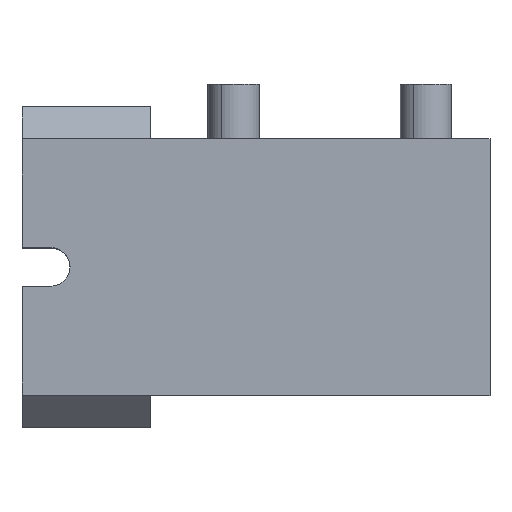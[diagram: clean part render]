
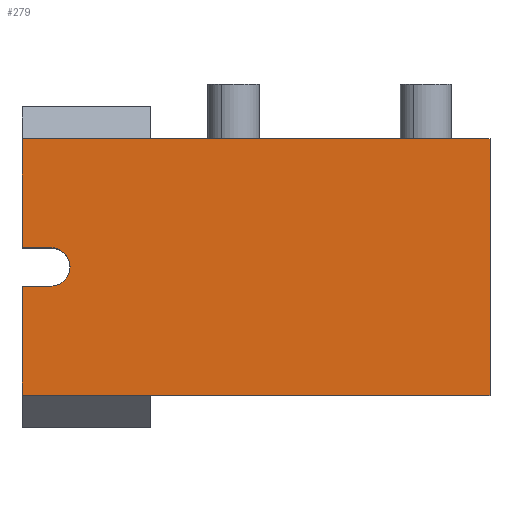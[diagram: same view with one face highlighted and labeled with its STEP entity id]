
A CAD part, top view. The second image highlights one B-rep face of the part: STEP entity #279.
In plain terms, the highlighted planar face has unit normal (0, 0, 1).
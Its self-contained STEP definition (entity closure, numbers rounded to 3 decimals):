
#279=ADVANCED_FACE('Pad.1',(#628),#629,.F.);
#628=FACE_OUTER_BOUND('',#1094,.T.);
#629=PLANE('',#1095);
#1094=EDGE_LOOP('',(#1739,#1740,#1741,#1742,#1743,#1744,#1745,#1746,#1747,#1748,#1749));
#1095=AXIS2_PLACEMENT_3D('',#1750,#1751,#1752);
#1739=ORIENTED_EDGE('',*,*,#2773,.F.);
#1740=ORIENTED_EDGE('',*,*,#2798,.F.);
#1741=ORIENTED_EDGE('',*,*,#2801,.F.);
#1742=ORIENTED_EDGE('',*,*,#2756,.F.);
#1743=ORIENTED_EDGE('',*,*,#2802,.F.);
#1744=ORIENTED_EDGE('',*,*,#2803,.F.);
#1745=ORIENTED_EDGE('',*,*,#2804,.F.);
#1746=ORIENTED_EDGE('',*,*,#2805,.F.);
#1747=ORIENTED_EDGE('',*,*,#2806,.F.);
#1748=ORIENTED_EDGE('',*,*,#2807,.F.);
#1749=ORIENTED_EDGE('',*,*,#2778,.F.);
#1750=CARTESIAN_POINT('',(0.0,0.0,27.5));
#1751=DIRECTION('',(0.0,0.0,-1.0));
#1752=DIRECTION('',(1.0,0.0,0.0));
#2756=EDGE_CURVE('',#3318,#3314,#3320,.F.);
#2773=EDGE_CURVE('',#3345,#3332,#3347,.T.);
#2778=EDGE_CURVE('',#3332,#3350,#3354,.F.);
#2798=EDGE_CURVE('',#3381,#3345,#3384,.T.);
#2801=EDGE_CURVE('',#3314,#3381,#3387,.F.);
#2802=EDGE_CURVE('',#3388,#3318,#3389,.F.);
#2803=EDGE_CURVE('',#3390,#3388,#3391,.T.);
#2804=EDGE_CURVE('',#3392,#3390,#3393,.T.);
#2805=EDGE_CURVE('',#3394,#3392,#3395,.F.);
#2806=EDGE_CURVE('',#3396,#3394,#3397,.F.);
#2807=EDGE_CURVE('',#3350,#3396,#3398,.F.);
#3314=VERTEX_POINT('',#4079);
#3318=VERTEX_POINT('',#4101);
#3320=CIRCLE('',#4104,3.0);
#3332=VERTEX_POINT('',#4120);
#3345=VERTEX_POINT('',#4138);
#3347=LINE('',#4141,#4142);
#3350=VERTEX_POINT('',#4145);
#3354=LINE('',#4151,#4152);
#3381=VERTEX_POINT('',#4191);
#3384=LINE('',#4195,#4196);
#3387=CIRCLE('',#4200,3.0);
#3388=VERTEX_POINT('',#4201);
#3389=LINE('',#4202,#4203);
#3390=VERTEX_POINT('',#4204);
#3391=LINE('',#4205,#4206);
#3392=VERTEX_POINT('',#4207);
#3393=LINE('',#4208,#4209);
#3394=VERTEX_POINT('',#4210);
#3395=LINE('',#4211,#4212);
#3396=VERTEX_POINT('',#4213);
#3397=LINE('',#4214,#4215);
#3398=LINE('',#4216,#4217);
#4079=CARTESIAN_POINT('',(-8.5,0.,27.5));
#4101=CARTESIAN_POINT('',(-11.5,-3.0,27.5));
#4104=AXIS2_PLACEMENT_3D('',#4895,#4896,#4897);
#4120=CARTESIAN_POINT('',(-16.0,20.0,27.5));
#4138=CARTESIAN_POINT('',(-16.0,3.0,27.5));
#4141=CARTESIAN_POINT('',(-16.0,11.5,27.5));
#4142=VECTOR('',#4914,1.0);
#4145=CARTESIAN_POINT('',(4.,20.0,27.5));
#4151=CARTESIAN_POINT('',(-6.,20.0,27.5));
#4152=VECTOR('',#4920,1.0);
#4191=CARTESIAN_POINT('',(-11.5,3.0,27.5));
#4195=CARTESIAN_POINT('',(-13.75,3.0,27.5));
#4196=VECTOR('',#4937,1.0);
#4200=AXIS2_PLACEMENT_3D('',#4939,#4940,#4941);
#4201=CARTESIAN_POINT('',(-16.0,-3.0,27.5));
#4202=CARTESIAN_POINT('',(-13.75,-3.0,27.5));
#4203=VECTOR('',#4942,1.0);
#4204=CARTESIAN_POINT('',(-16.0,-20.0,27.5));
#4205=CARTESIAN_POINT('',(-16.0,-11.5,27.5));
#4206=VECTOR('',#4943,1.0);
#4207=CARTESIAN_POINT('',(4.0,-20.0,27.5));
#4208=CARTESIAN_POINT('',(-6.0,-20.0,27.5));
#4209=VECTOR('',#4944,1.0);
#4210=CARTESIAN_POINT('',(57.0,-20.0,27.5));
#4211=CARTESIAN_POINT('',(30.5,-20.0,27.5));
#4212=VECTOR('',#4945,1.0);
#4213=CARTESIAN_POINT('',(57.0,20.0,27.5));
#4214=CARTESIAN_POINT('',(57.0,0.0,27.5));
#4215=VECTOR('',#4946,1.0);
#4216=CARTESIAN_POINT('',(30.5,20.0,27.5));
#4217=VECTOR('',#4947,1.0);
#4895=CARTESIAN_POINT('',(-11.5,0.0,27.5));
#4896=DIRECTION('',(0.0,0.0,-1.0));
#4897=DIRECTION('',(1.0,0.0,0.0));
#4914=DIRECTION('',(0.0,1.0,0.0));
#4920=DIRECTION('',(-1.0,0.0,0.0));
#4937=DIRECTION('',(-1.0,0.0,0.0));
#4939=CARTESIAN_POINT('',(-11.5,0.0,27.5));
#4940=DIRECTION('',(0.0,0.0,-1.0));
#4941=DIRECTION('',(1.0,0.0,0.0));
#4942=DIRECTION('',(-1.0,0.0,0.0));
#4943=DIRECTION('',(0.0,1.0,0.0));
#4944=DIRECTION('',(-1.0,0.0,0.0));
#4945=DIRECTION('',(1.0,0.0,0.0));
#4946=DIRECTION('',(0.0,1.0,0.0));
#4947=DIRECTION('',(-1.0,0.0,0.0));
